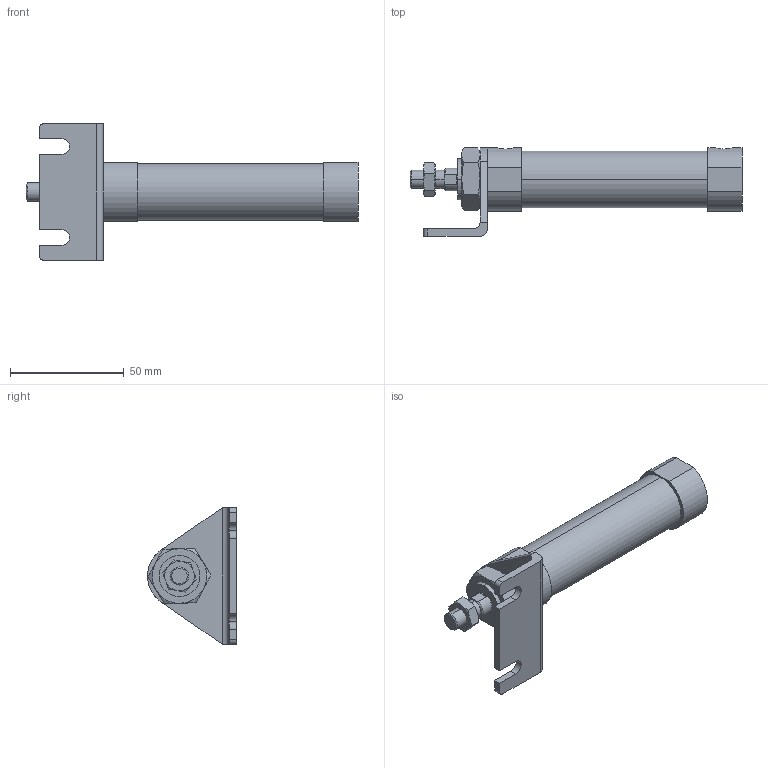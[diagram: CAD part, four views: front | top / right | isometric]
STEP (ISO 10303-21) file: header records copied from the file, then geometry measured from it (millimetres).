
FILE_DESCRIPTION (( 'STEP AP203' ), '1' );
FILE_NAME ('JGND2-20-50-L.STEP', '2016-08-04T02:23:07', ( '' ), ( '' ), 'SwSTEP 2.0', 'SolidWorks 2014', '' );
FILE_SCHEMA (( 'CONFIG_CONTROL_DESIGN' ));
Length unit declared in the file: millimetre
Products named in the file (5): J#2-20-L; JGND2-20-50-L; J#2-20-50(P)
Assembly tree (4 placements, depth 2):
  JGND2-20-50-L
    J#2-20-50(P)
    (unnamed)
    (unnamed)
    J#2-20-L
Bounding box: 146 x 39 x 60 mm (x, y, z)
Volume: 72529.6 mm3; surface area: 20762.3 mm2
Topology: 4 solids, 4 shells, 111 faces, 255 edges, 160 vertices
Faces by surface type: plane 49, cylinder 34, torus 24, cone 4
Entity records: 4004 total; most frequent: CARTESIAN_POINT 989, DIRECTION 531, ORIENTED_EDGE 510, EDGE_CURVE 255, AXIS2_PLACEMENT_3D 214, VERTEX_POINT 160, EDGE_LOOP 125, FACE_OUTER_BOUND 111
